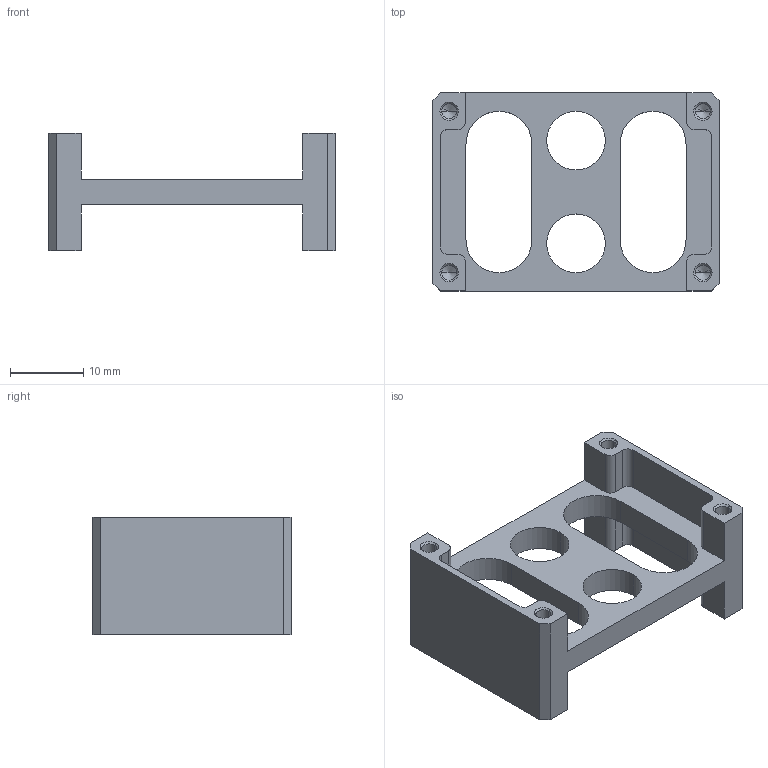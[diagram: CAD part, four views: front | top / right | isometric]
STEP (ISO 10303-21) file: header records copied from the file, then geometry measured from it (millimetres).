
FILE_DESCRIPTION((''),'2;1');
FILE_NAME('FR08_D_01','2010-02-02T',('JANG WOOK'),(''),'PRO/ENGINEER BY PARAMETRIC TECHNOLOGY CORPORATION, 2009060','PRO/ENGINEER BY PARAMETRIC TECHNOLOGY CORPORATION, 2009060','');
FILE_SCHEMA(('CONFIG_CONTROL_DESIGN'));
Length unit declared in the file: millimetre
Products named in the file (1): FR08_D_01
Bounding box: 39 x 27 x 16 mm (x, y, z)
Volume: 3423.5 mm3; surface area: 4407.3 mm2
Topology: 1 solids, 9 shells, 134 faces, 356 edges, 224 vertices
Faces by surface type: cylinder 56, plane 46, cone 32
Entity records: 4123 total; most frequent: DIRECTION 754, CARTESIAN_POINT 699, ORIENTED_EDGE 648, EDGE_CURVE 340, AXIS2_PLACEMENT_3D 279, VERTEX_POINT 224, VECTOR 196, LINE 196
